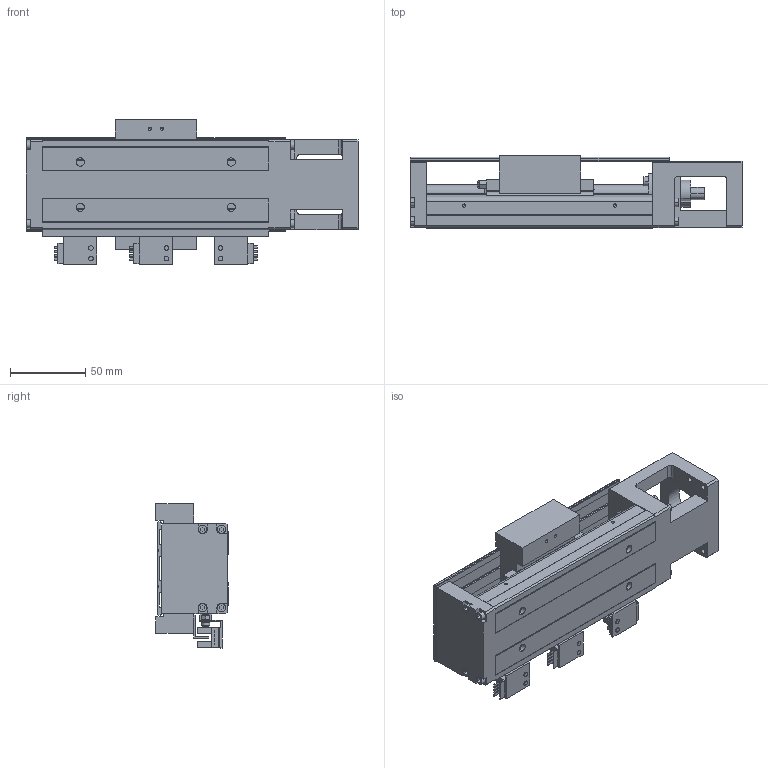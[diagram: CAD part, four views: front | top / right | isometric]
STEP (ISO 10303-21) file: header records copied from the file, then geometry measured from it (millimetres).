
FILE_DESCRIPTION (( 'STEP AP203' ), '1' );
FILE_NAME ('HKK60D5C-150A1-F0CS2.stp', '2021-11-30T01:26:55', ( '' ), ( '' ), 'SwSTEP 2.0', 'SolidWorks 2018', '' );
FILE_SCHEMA (( 'CONFIG_CONTROL_DESIGN' ));
Length unit declared in the file: millimetre
Products named in the file (1): HKK60D5C-150A1-F0CS2
Bounding box: 220 x 48 x 95.85 mm (x, y, z)
Volume: 389917.8 mm3; surface area: 133369.8 mm2
Topology: 6 solids, 16 shells, 1323 faces, 3355 edges, 2135 vertices
Faces by surface type: plane 837, cylinder 354, cone 98, torus 32, bspline 2
Entity records: 39588 total; most frequent: CARTESIAN_POINT 7848, ORIENTED_EDGE 6610, DIRECTION 6441, EDGE_CURVE 3305, LINE 2357, VECTOR 2357, VERTEX_POINT 2135, AXIS2_PLACEMENT_3D 2042
